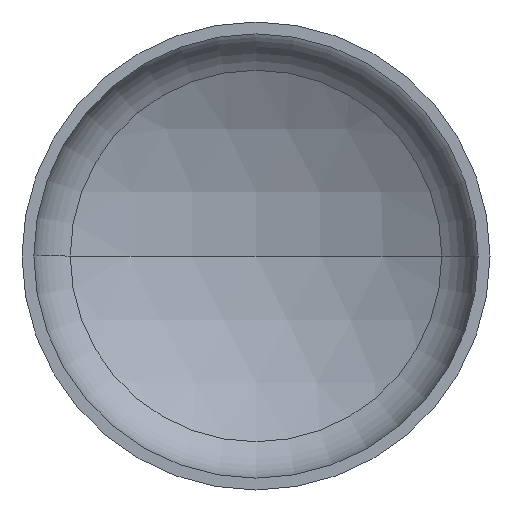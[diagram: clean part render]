
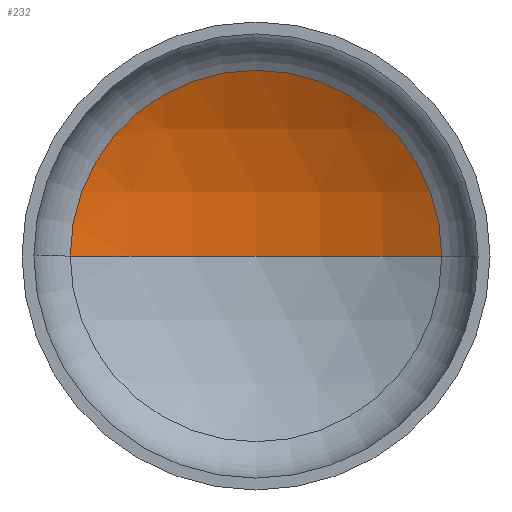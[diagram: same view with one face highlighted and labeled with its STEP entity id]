
A CAD part, front view. The second image highlights one B-rep face of the part: STEP entity #232.
In plain terms, the highlighted spherical face has radius 284 mm.
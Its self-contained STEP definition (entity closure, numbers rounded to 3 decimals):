
#8 = ORIENTED_EDGE ( 'NONE', *, *, #130, .T. ) ;
#10 = AXIS2_PLACEMENT_3D ( 'NONE', #163, #283, #290 ) ;
#28 = CIRCLE ( 'NONE', #31, 284. ) ;
#31 = AXIS2_PLACEMENT_3D ( 'NONE', #278, #276, #274 ) ;
#36 = AXIS2_PLACEMENT_3D ( 'NONE', #70, #91, #257 ) ;
#43 = AXIS2_PLACEMENT_3D ( 'NONE', #400, #88, #71 ) ;
#70 = CARTESIAN_POINT ( 'NONE',  ( 0., -168.722, 0. ) ) ;
#71 = DIRECTION ( 'NONE',  ( 1., 0., 0. ) ) ;
#82 = CARTESIAN_POINT ( 'NONE',  ( 141.132, 77.728, 0. ) ) ;
#87 = CARTESIAN_POINT ( 'NONE',  ( 0., 115.278, 0. ) ) ;
#88 = DIRECTION ( 'NONE',  ( 0., -1., 0. ) ) ;
#91 = DIRECTION ( 'NONE',  ( 0., 0., -1. ) ) ;
#118 = SPHERICAL_SURFACE ( 'NONE', #10, 284. ) ;
#123 = VERTEX_POINT ( 'NONE', #87 ) ;
#126 = EDGE_CURVE ( 'NONE', #223, #256, #139, .T. ) ;
#129 = CIRCLE ( 'NONE', #36, 284. ) ;
#130 = EDGE_CURVE ( 'NONE', #123, #223, #129, .T. ) ;
#133 = EDGE_CURVE ( 'NONE', #123, #256, #28, .T. ) ;
#139 = CIRCLE ( 'NONE', #43, 141.132 ) ;
#152 = EDGE_LOOP ( 'NONE', ( #265, #8, #194 ) ) ;
#163 = CARTESIAN_POINT ( 'NONE',  ( 0., -168.722, 0. ) ) ;
#194 = ORIENTED_EDGE ( 'NONE', *, *, #126, .T. ) ;
#223 = VERTEX_POINT ( 'NONE', #82 ) ;
#232 = ADVANCED_FACE ( 'NONE', ( #342 ), #118, .F. ) ;
#256 = VERTEX_POINT ( 'NONE', #359 ) ;
#257 = DIRECTION ( 'NONE',  ( -1., 0., 0. ) ) ;
#265 = ORIENTED_EDGE ( 'NONE', *, *, #133, .F. ) ;
#274 = DIRECTION ( 'NONE',  ( 1., 0., 0. ) ) ;
#276 = DIRECTION ( 'NONE',  ( 0., 0., 1. ) ) ;
#278 = CARTESIAN_POINT ( 'NONE',  ( 0., -168.722, 0. ) ) ;
#283 = DIRECTION ( 'NONE',  ( 0., 0., -1. ) ) ;
#290 = DIRECTION ( 'NONE',  ( -1., 0., 0. ) ) ;
#342 = FACE_OUTER_BOUND ( 'NONE', #152, .T. ) ;
#359 = CARTESIAN_POINT ( 'NONE',  ( -141.132, 77.728, 0. ) ) ;
#400 = CARTESIAN_POINT ( 'NONE',  ( 0., 77.728, 0. ) ) ;
